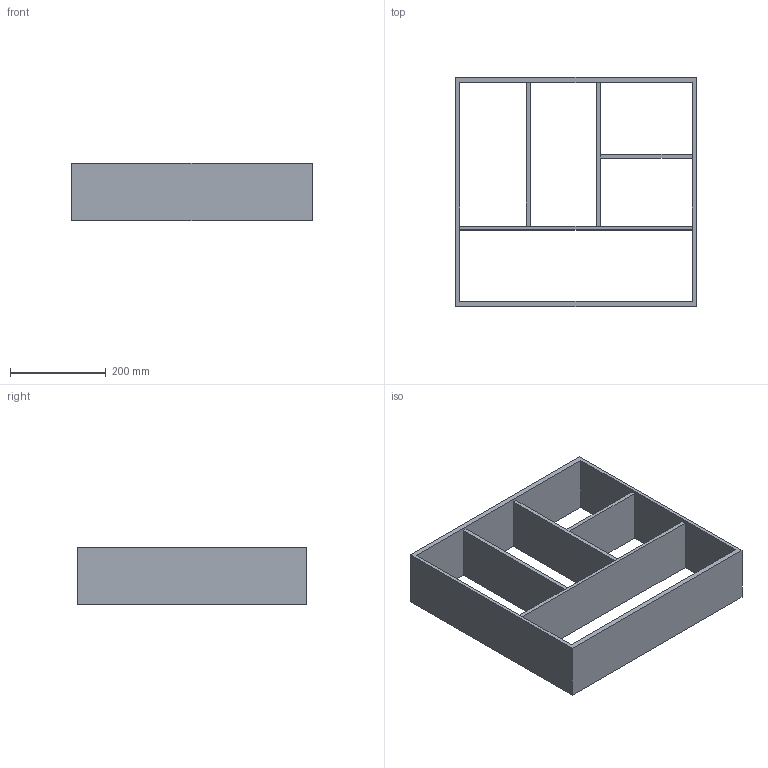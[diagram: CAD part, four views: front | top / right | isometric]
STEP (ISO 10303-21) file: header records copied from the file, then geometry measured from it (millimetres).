
FILE_DESCRIPTION (( 'STEP AP214' ), '1' );
FILE_NAME ('Vario Multi H120 NL500_B600_19 mm_Alu-Buche.step', '2010-10-08T09:47:33', ( 'grass' ), ( '' ), 'SwSTEP 2.0', 'SolidWorks 2010', '' );
FILE_SCHEMA (( 'AUTOMOTIVE_DESIGN' ));
Length unit declared in the file: millimetre
Products named in the file (1): Vario Multi H120 NL500_B600_19 mm_Alu-Buche
Bounding box: 502 x 479 x 120 mm (x, y, z)
Volume: 3367629.7 mm3; surface area: 802847.1 mm2
Topology: 1 solids, 1 shells, 29 faces, 80 edges, 52 vertices
Faces by surface type: plane 29
Entity records: 956 total; most frequent: CARTESIAN_POINT 162, ORIENTED_EDGE 160, DIRECTION 140, LINE 80, VECTOR 80, EDGE_CURVE 80, VERTEX_POINT 52, EDGE_LOOP 38
